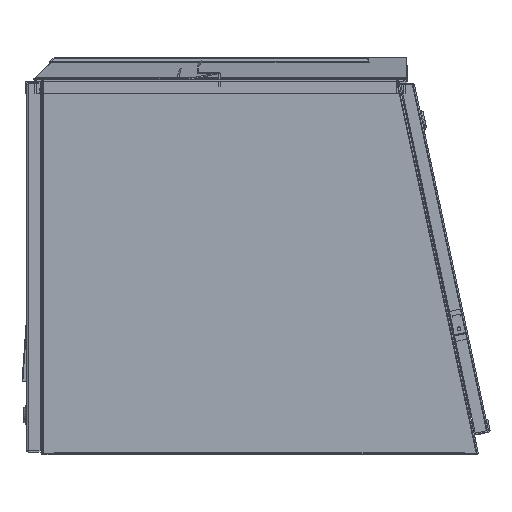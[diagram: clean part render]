
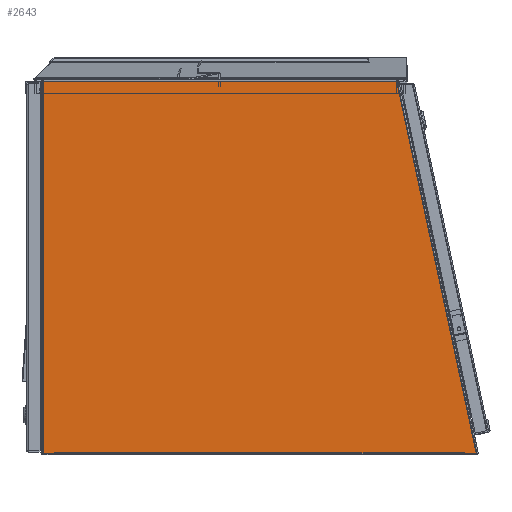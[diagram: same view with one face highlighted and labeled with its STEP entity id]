
A CAD part, left-side view. The second image highlights one B-rep face of the part: STEP entity #2643.
In plain terms, the highlighted planar face has unit normal (-1, 0, 0) as drawn and (0, 0, -1) by its records, which use the part's own axes.
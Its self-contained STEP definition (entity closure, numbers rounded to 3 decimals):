
#2643 = ADVANCED_FACE( '', ( #3724 ), #3725, .T. );
#3724 = FACE_OUTER_BOUND( '', #6039, .T. );
#3725 = PLANE( '', #6040 );
#6039 = EDGE_LOOP( '', ( #10492, #10493, #10494, #10495, #10496, #10497, #10498, #10499, #10500, #10501 ) );
#6040 = AXIS2_PLACEMENT_3D( '', #10502, #10503, #10504 );
#10492 = ORIENTED_EDGE( '', *, *, #16913, .T. );
#10493 = ORIENTED_EDGE( '', *, *, #16810, .F. );
#10494 = ORIENTED_EDGE( '', *, *, #16798, .T. );
#10495 = ORIENTED_EDGE( '', *, *, #16914, .T. );
#10496 = ORIENTED_EDGE( '', *, *, #16912, .F. );
#10497 = ORIENTED_EDGE( '', *, *, #16915, .F. );
#10498 = ORIENTED_EDGE( '', *, *, #16916, .F. );
#10499 = ORIENTED_EDGE( '', *, *, #16888, .F. );
#10500 = ORIENTED_EDGE( '', *, *, #16800, .F. );
#10501 = ORIENTED_EDGE( '', *, *, #16917, .F. );
#10502 = CARTESIAN_POINT( '', ( -296.069, -252.171, 0. ) );
#10503 = DIRECTION( '', ( 0., 0., -1. ) );
#10504 = DIRECTION( '', ( 1., 0., 0. ) );
#16798 = EDGE_CURVE( '', #19101, #19105, #19107, .T. );
#16800 = EDGE_CURVE( '', #19109, #19111, #19112, .T. );
#16810 = EDGE_CURVE( '', #19101, #19124, #19130, .T. );
#16888 = EDGE_CURVE( '', #19111, #19257, #19260, .T. );
#16912 = EDGE_CURVE( '', #19292, #19288, #19294, .T. );
#16913 = EDGE_CURVE( '', #19295, #19124, #19296, .T. );
#16914 = EDGE_CURVE( '', #19105, #19288, #19297, .T. );
#16915 = EDGE_CURVE( '', #19298, #19292, #19299, .T. );
#16916 = EDGE_CURVE( '', #19257, #19298, #19300, .T. );
#16917 = EDGE_CURVE( '', #19295, #19109, #19301, .T. );
#19101 = VERTEX_POINT( '', #22985 );
#19105 = VERTEX_POINT( '', #22991 );
#19107 = LINE( '', #22994, #22995 );
#19109 = VERTEX_POINT( '', #22997 );
#19111 = VERTEX_POINT( '', #23000 );
#19112 = LINE( '', #23001, #23002 );
#19124 = VERTEX_POINT( '', #23018 );
#19130 = LINE( '', #23025, #23026 );
#19257 = VERTEX_POINT( '', #23273 );
#19260 = LINE( '', #23286, #23287 );
#19288 = VERTEX_POINT( '', #23339 );
#19292 = VERTEX_POINT( '', #23345 );
#19294 = LINE( '', #23348, #23349 );
#19295 = VERTEX_POINT( '', #23350 );
#19296 = LINE( '', #23351, #23352 );
#19297 = LINE( '', #23353, #23354 );
#19298 = VERTEX_POINT( '', #23355 );
#19299 = LINE( '', #23356, #23357 );
#19300 = LINE( '', #23358, #23359 );
#19301 = LINE( '', #23360, #23361 );
#22985 = CARTESIAN_POINT( '', ( -276.829, -251.257, 0. ) );
#22991 = CARTESIAN_POINT( '', ( -277.591, -251.257, 0. ) );
#22994 = CARTESIAN_POINT( '', ( -277.591, -251.257, 0. ) );
#22995 = VECTOR( '', #28893, 1000. );
#22997 = CARTESIAN_POINT( '', ( 277.653, -252.171, 0. ) );
#23000 = CARTESIAN_POINT( '', ( 293.326, -252.171, 0. ) );
#23001 = CARTESIAN_POINT( '', ( -296.069, -252.171, 0. ) );
#23002 = VECTOR( '', #28895, 1000. );
#23018 = CARTESIAN_POINT( '', ( 276.891, -251.257, 0. ) );
#23025 = CARTESIAN_POINT( '', ( -276.829, -251.257, 0. ) );
#23026 = VECTOR( '', #28913, 1000. );
#23273 = CARTESIAN_POINT( '', ( 293.326, 252.171, 0. ) );
#23286 = CARTESIAN_POINT( '', ( 293.326, -252.171, 0. ) );
#23287 = VECTOR( '', #28984, 1000. );
#23339 = CARTESIAN_POINT( '', ( -277.591, -252.171, 0. ) );
#23345 = CARTESIAN_POINT( '', ( -293.263, -252.171, 0. ) );
#23348 = CARTESIAN_POINT( '', ( -296.069, -252.171, 0. ) );
#23349 = VECTOR( '', #29007, 1000. );
#23350 = CARTESIAN_POINT( '', ( 277.653, -251.257, 0. ) );
#23351 = CARTESIAN_POINT( '', ( -277.591, -251.257, 0. ) );
#23352 = VECTOR( '', #29008, 1000. );
#23353 = CARTESIAN_POINT( '', ( -277.591, -252.171, 0. ) );
#23354 = VECTOR( '', #29009, 1000. );
#23355 = CARTESIAN_POINT( '', ( -185.313, 252.171, 0. ) );
#23356 = CARTESIAN_POINT( '', ( -185.313, 252.171, 0. ) );
#23357 = VECTOR( '', #29010, 1000. );
#23358 = CARTESIAN_POINT( '', ( 296.069, 252.171, 0. ) );
#23359 = VECTOR( '', #29011, 1000. );
#23360 = CARTESIAN_POINT( '', ( 277.653, -252.171, 0. ) );
#23361 = VECTOR( '', #29012, 1000. );
#28893 = DIRECTION( '', ( -1., 0., 0. ) );
#28895 = DIRECTION( '', ( 1., 0., 0. ) );
#28913 = DIRECTION( '', ( 1., 0., 0. ) );
#28984 = DIRECTION( '', ( 0., 1., 0. ) );
#29007 = DIRECTION( '', ( 1., 0., 0. ) );
#29008 = DIRECTION( '', ( -1., 0., 0. ) );
#29009 = DIRECTION( '', ( 0., -1., 0. ) );
#29010 = DIRECTION( '', ( -0.209, -0.978, 0. ) );
#29011 = DIRECTION( '', ( -1., 0., 0. ) );
#29012 = DIRECTION( '', ( 0., -1., 0. ) );
